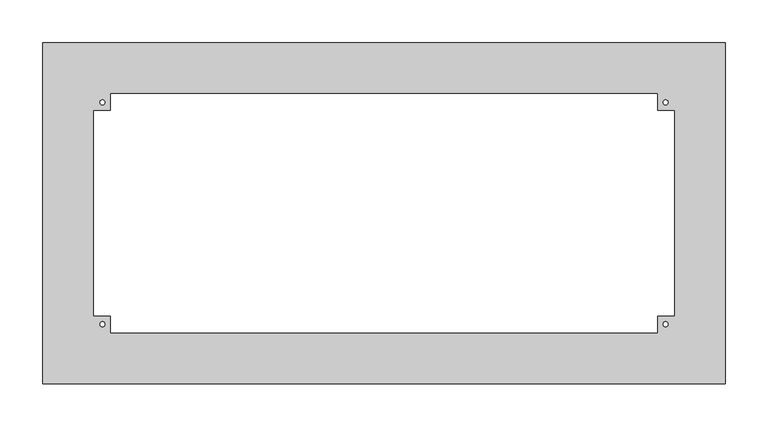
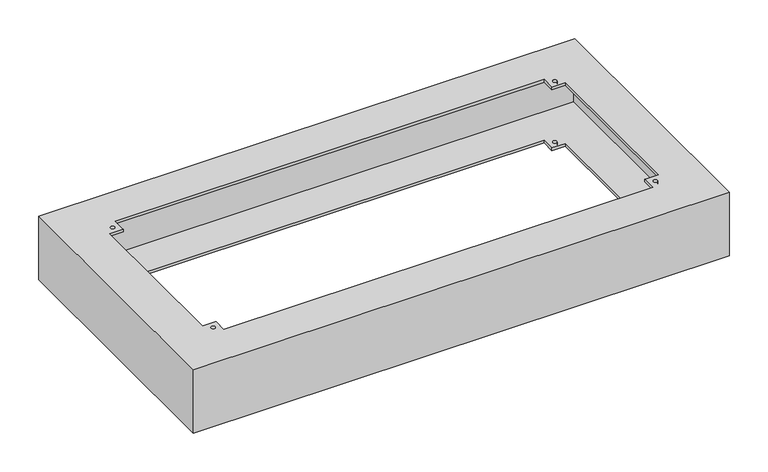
"""IFC4 building model written with IfcOpenShell, lengths in millimetres: furniture geometry, НВО_КНС_Сейсмоцоколь_DKC : Сейсмоцоколь 800x400x100мм."""

from ifc_helpers import new_model, si_unit, frame, origin, place, context, project, spatial, polyline, circle_curve, source, transform, mapped, element, save
from ifc_brep_helpers import plane_surface, revolved_surface, advanced_brep


def furniture_092bb3a8(model_context):
    return source(origin(), model_context, "Body", "AdvancedBrep", [
        advanced_brep(
        [(400.0, 200.0, 100.0), (-400.0, 200.0, 100.0), (-400.0, -200.0, 100.0), (400.0, -200.0, 100.0), (320.0, 140.0, 100.0), (320.0, 120.0, 100.0), (340.0, 120.0, 100.0), (340.0, -120.0, 100.0), (320.0, -120.0, 100.0), (320.0, -140.0, 100.0), (-320.0, -140.0, 100.0), (-320.0, -120.0, 100.0), (-340.0, -120.0, 100.0), (-340.0, 120.0, 100.0), (-320.0, 120.0, 100.0), (-320.0, 140.0, 100.0), (-332.8696247, 130.0, 100.0), (-327.1303753, 130.0, 100.0), (327.1303753, 130.0, 100.0), (332.8696247, 130.0, 100.0), (-332.8696247, -130.0, 100.0), (-327.1303753, -130.0, 100.0), (327.1303753, -130.0, 100.0), (332.8696247, -130.0, 100.0), (400.0, 200.0, 0.0), (400.0, -200.0, 0.0), (-400.0, -200.0, 0.0), (-400.0, 200.0, 0.0), (320.0, 140.0, 0.0), (-320.0, 140.0, 0.0), (-320.0, 120.0, 0.0), (-340.0, 120.0, 0.0), (-340.0, -120.0, 0.0), (-320.0, -120.0, 0.0), (-320.0, -140.0, 0.0), (320.0, -140.0, 0.0), (320.0, -120.0, 0.0), (340.0, -120.0, 0.0), (340.0, 120.0, 0.0), (320.0, 120.0, 0.0), (-332.8696247, 130.0, 0.0), (-327.1303753, 130.0, 0.0), (327.1303753, 130.0, 0.0), (332.8696247, 130.0, 0.0), (-332.8696247, -130.0, 0.0), (-327.1303753, -130.0, 0.0), (327.1303753, -130.0, 0.0), (332.8696247, -130.0, 0.0), (320.0, 140.0, 96.0), (320.0, 120.0, 96.0), (320.0, 120.0, 4.0), (320.0, 140.0, 4.0), (340.0, 120.0, 96.0), (340.0, 120.0, 4.0), (340.0, -120.0, 96.0), (340.0, -120.0, 4.0), (320.0, -120.0, 96.0), (320.0, -120.0, 4.0), (320.0, -140.0, 96.0), (320.0, -140.0, 4.0), (-320.0, -140.0, 96.0), (-320.0, -140.0, 4.0), (-320.0, -120.0, 96.0), (-320.0, -120.0, 4.0), (-340.0, -120.0, 96.0), (-340.0, -120.0, 4.0), (-340.0, 120.0, 96.0), (-340.0, 120.0, 4.0), (-320.0, 120.0, 96.0), (-320.0, 120.0, 4.0), (-320.0, 140.0, 96.0), (-320.0, 140.0, 4.0), (-332.8696247, 130.0, 96.0), (-327.1303753, 130.0, 96.0), (-327.1303753, 130.0, 4.0), (-332.8696247, 130.0, 4.0), (327.1303753, 130.0, 96.0), (332.8696247, 130.0, 96.0), (332.8696247, 130.0, 4.0), (327.1303753, 130.0, 4.0), (-332.8696247, -130.0, 96.0), (-327.1303753, -130.0, 96.0), (-327.1303753, -130.0, 4.0), (-332.8696247, -130.0, 4.0), (327.1303753, -130.0, 96.0), (332.8696247, -130.0, 96.0), (332.8696247, -130.0, 4.0), (327.1303753, -130.0, 4.0), (396.0, 196.0, 96.0), (396.0, -196.0, 96.0), (-396.0, -196.0, 96.0), (-396.0, 196.0, 96.0), (396.0, 196.0, 4.0), (-396.0, 196.0, 4.0), (-396.0, -196.0, 4.0), (396.0, -196.0, 4.0)],
        [
            (0, 1),
            (1, 2),
            (2, 3),
            (3, 0),
            (4, 5),
            (5, 6),
            (6, 7),
            (7, 8),
            (8, 9),
            (9, 10),
            (10, 11),
            (11, 12),
            (12, 13),
            (13, 14),
            (14, 15),
            (15, 4),
            (16, 17, circle_curve(frame((-330.0, 130.0, 100.0), z_axis=(0.0, 0.0, -1.0), x_axis=(1.0, 0.0, 0.0)), 2.8696247)),
            (17, 16, circle_curve(frame((-330.0, 130.0, 100.0), z_axis=(0.0, 0.0, -1.0), x_axis=(1.0, 0.0, 0.0)), 2.8696247)),
            (18, 19, circle_curve(frame((330.0, 130.0, 100.0), z_axis=(0.0, 0.0, -1.0), x_axis=(1.0, 0.0, 0.0)), 2.8696247)),
            (19, 18, circle_curve(frame((330.0, 130.0, 100.0), z_axis=(0.0, 0.0, -1.0), x_axis=(1.0, 0.0, 0.0)), 2.8696247)),
            (20, 21, circle_curve(frame((-330.0, -130.0, 100.0), z_axis=(0.0, 0.0, -1.0), x_axis=(1.0, 0.0, 0.0)), 2.8696247)),
            (21, 20, circle_curve(frame((-330.0, -130.0, 100.0), z_axis=(0.0, 0.0, -1.0), x_axis=(1.0, 0.0, 0.0)), 2.8696247)),
            (22, 23, circle_curve(frame((330.0, -130.0, 100.0), z_axis=(0.0, 0.0, -1.0), x_axis=(1.0, 0.0, 0.0)), 2.8696247)),
            (23, 22, circle_curve(frame((330.0, -130.0, 100.0), z_axis=(0.0, 0.0, -1.0), x_axis=(1.0, 0.0, 0.0)), 2.8696247)),
            (24, 25),
            (25, 26),
            (26, 27),
            (27, 24),
            (28, 29),
            (29, 30),
            (30, 31),
            (31, 32),
            (32, 33),
            (33, 34),
            (34, 35),
            (35, 36),
            (36, 37),
            (37, 38),
            (38, 39),
            (39, 28),
            (40, 41, circle_curve(frame((-330.0, 130.0, 0.0), z_axis=(0.0, 0.0, 1.0), x_axis=(1.0, 0.0, 0.0)), 2.8696247)),
            (41, 40, circle_curve(frame((-330.0, 130.0, 0.0), z_axis=(0.0, 0.0, 1.0), x_axis=(1.0, 0.0, 0.0)), 2.8696247)),
            (42, 43, circle_curve(frame((330.0, 130.0, 0.0), z_axis=(0.0, 0.0, 1.0), x_axis=(1.0, 0.0, 0.0)), 2.8696247)),
            (43, 42, circle_curve(frame((330.0, 130.0, 0.0), z_axis=(0.0, 0.0, 1.0), x_axis=(1.0, 0.0, 0.0)), 2.8696247)),
            (44, 45, circle_curve(frame((-330.0, -130.0, 0.0), z_axis=(0.0, 0.0, 1.0), x_axis=(1.0, 0.0, 0.0)), 2.8696247)),
            (45, 44, circle_curve(frame((-330.0, -130.0, 0.0), z_axis=(0.0, 0.0, 1.0), x_axis=(1.0, 0.0, 0.0)), 2.8696247)),
            (46, 47, circle_curve(frame((330.0, -130.0, 0.0), z_axis=(0.0, 0.0, 1.0), x_axis=(1.0, 0.0, 0.0)), 2.8696247)),
            (47, 46, circle_curve(frame((330.0, -130.0, 0.0), z_axis=(0.0, 0.0, 1.0), x_axis=(1.0, 0.0, 0.0)), 2.8696247)),
            (0, 24),
            (27, 1),
            (26, 2),
            (25, 3),
            (4, 48),
            (48, 49),
            (49, 5),
            (39, 50),
            (50, 51),
            (51, 28),
            (49, 52),
            (52, 6),
            (38, 53),
            (53, 50),
            (52, 54),
            (54, 7),
            (37, 55),
            (55, 53),
            (54, 56),
            (56, 8),
            (36, 57),
            (57, 55),
            (56, 58),
            (58, 9),
            (35, 59),
            (59, 57),
            (58, 60),
            (60, 10),
            (34, 61),
            (61, 59),
            (60, 62),
            (62, 11),
            (33, 63),
            (63, 61),
            (62, 64),
            (64, 12),
            (32, 65),
            (65, 63),
            (64, 66),
            (66, 13),
            (31, 67),
            (67, 65),
            (66, 68),
            (68, 14),
            (30, 69),
            (69, 67),
            (68, 70),
            (70, 15),
            (29, 71),
            (71, 69),
            (70, 48),
            (51, 71),
            (16, 72),
            (72, 73, circle_curve(frame((-330.0, 130.0, 96.0), z_axis=(0.0, 0.0, -1.0), x_axis=(1.0, 0.0, 0.0)), 2.8696247)),
            (73, 17),
            (41, 74),
            (74, 75, circle_curve(frame((-330.0, 130.0, 4.0), z_axis=(0.0, 0.0, 1.0), x_axis=(1.0, 0.0, 0.0)), 2.8696247)),
            (75, 40),
            (73, 72, circle_curve(frame((-330.0, 130.0, 96.0), z_axis=(0.0, 0.0, -1.0), x_axis=(1.0, 0.0, 0.0)), 2.8696247)),
            (75, 74, circle_curve(frame((-330.0, 130.0, 4.0), z_axis=(0.0, 0.0, 1.0), x_axis=(1.0, 0.0, 0.0)), 2.8696247)),
            (18, 76),
            (76, 77, circle_curve(frame((330.0, 130.0, 96.0), z_axis=(0.0, 0.0, -1.0), x_axis=(1.0, 0.0, 0.0)), 2.8696247)),
            (77, 19),
            (43, 78),
            (78, 79, circle_curve(frame((330.0, 130.0, 4.0), z_axis=(0.0, 0.0, 1.0), x_axis=(1.0, 0.0, 0.0)), 2.8696247)),
            (79, 42),
            (77, 76, circle_curve(frame((330.0, 130.0, 96.0), z_axis=(0.0, 0.0, -1.0), x_axis=(1.0, 0.0, 0.0)), 2.8696247)),
            (79, 78, circle_curve(frame((330.0, 130.0, 4.0), z_axis=(0.0, 0.0, 1.0), x_axis=(1.0, 0.0, 0.0)), 2.8696247)),
            (20, 80),
            (80, 81, circle_curve(frame((-330.0, -130.0, 96.0), z_axis=(0.0, 0.0, -1.0), x_axis=(1.0, 0.0, 0.0)), 2.8696247)),
            (81, 21),
            (45, 82),
            (82, 83, circle_curve(frame((-330.0, -130.0, 4.0), z_axis=(0.0, 0.0, 1.0), x_axis=(1.0, 0.0, 0.0)), 2.8696247)),
            (83, 44),
            (81, 80, circle_curve(frame((-330.0, -130.0, 96.0), z_axis=(0.0, 0.0, -1.0), x_axis=(1.0, 0.0, 0.0)), 2.8696247)),
            (83, 82, circle_curve(frame((-330.0, -130.0, 4.0), z_axis=(0.0, 0.0, 1.0), x_axis=(1.0, 0.0, 0.0)), 2.8696247)),
            (22, 84),
            (84, 85, circle_curve(frame((330.0, -130.0, 96.0), z_axis=(0.0, 0.0, -1.0), x_axis=(1.0, 0.0, 0.0)), 2.8696247)),
            (85, 23),
            (47, 86),
            (86, 87, circle_curve(frame((330.0, -130.0, 4.0), z_axis=(0.0, 0.0, 1.0), x_axis=(1.0, 0.0, 0.0)), 2.8696247)),
            (87, 46),
            (85, 84, circle_curve(frame((330.0, -130.0, 96.0), z_axis=(0.0, 0.0, -1.0), x_axis=(1.0, 0.0, 0.0)), 2.8696247)),
            (87, 86, circle_curve(frame((330.0, -130.0, 4.0), z_axis=(0.0, 0.0, 1.0), x_axis=(1.0, 0.0, 0.0)), 2.8696247)),
            (88, 89),
            (89, 90),
            (90, 91),
            (91, 88),
            (92, 93),
            (93, 94),
            (94, 95),
            (95, 92),
            (91, 93),
            (92, 88),
            (90, 94),
            (89, 95),
        ],
        [
            plane_surface(frame((-400.0, 200.0, 100.0), z_axis=(0.0, 0.0, 1.0), x_axis=(-1.0, 0.0, 0.0))),
            plane_surface(frame((-400.0, 200.0, 0.0), z_axis=(0.0, 0.0, -1.0), x_axis=(1.0, 0.0, 0.0))),
            plane_surface(frame((400.0, 200.0, 100.0), z_axis=(0.0, 1.0, 0.0), x_axis=(0.0, 0.0, -1.0))),
            plane_surface(frame((-400.0, 200.0, 100.0), z_axis=(-1.0, 0.0, 0.0), x_axis=(0.0, 0.0, -1.0))),
            plane_surface(frame((-400.0, -200.0, 100.0), z_axis=(0.0, -1.0, 0.0), x_axis=(0.0, 0.0, -1.0))),
            plane_surface(frame((400.0, -200.0, 100.0), z_axis=(1.0, 0.0, 0.0), x_axis=(0.0, 0.0, -1.0))),
            plane_surface(frame((320.0, 140.0, 100.0), z_axis=(-1.0, 0.0, 0.0), x_axis=(0.0, 0.0, -1.0))),
            plane_surface(frame((320.0, 120.0, 100.0), z_axis=(0.0, -1.0, 0.0), x_axis=(0.0, 0.0, -1.0))),
            plane_surface(frame((340.0, 120.0, 100.0), z_axis=(-1.0, 0.0, 0.0), x_axis=(0.0, 0.0, -1.0))),
            plane_surface(frame((340.0, -120.0, 100.0), z_axis=(0.0, 1.0, 0.0), x_axis=(0.0, 0.0, -1.0))),
            plane_surface(frame((320.0, -120.0, 100.0), z_axis=(-1.0, 0.0, 0.0), x_axis=(0.0, 0.0, -1.0))),
            plane_surface(frame((320.0, -140.0, 100.0), z_axis=(0.0, 1.0, 0.0), x_axis=(0.0, 0.0, -1.0))),
            plane_surface(frame((-320.0, -140.0, 100.0), z_axis=(1.0, 0.0, 0.0), x_axis=(0.0, 0.0, -1.0))),
            plane_surface(frame((-320.0, -120.0, 100.0), z_axis=(0.0, 1.0, 0.0), x_axis=(0.0, 0.0, -1.0))),
            plane_surface(frame((-340.0, -120.0, 100.0), z_axis=(1.0, 0.0, 0.0), x_axis=(0.0, 0.0, -1.0))),
            plane_surface(frame((-340.0, 120.0, 100.0), z_axis=(0.0, -1.0, 0.0), x_axis=(0.0, 0.0, -1.0))),
            plane_surface(frame((-320.0, 120.0, 100.0), z_axis=(1.0, 0.0, 0.0), x_axis=(0.0, 0.0, -1.0))),
            plane_surface(frame((-320.0, 140.0, 100.0), z_axis=(0.0, -1.0, 0.0), x_axis=(0.0, 0.0, -1.0))),
            revolved_surface(polyline([(-327.1303753, 130.0, 96.0), (-327.1303753, 130.0, 100.0)]), (-330.0, 130.0, 0.0), (0.0, 0.0, -1.0)),
            revolved_surface(polyline([(-327.1303753, 130.0, 0.0), (-327.1303753, 130.0, 4.0)]), (-330.0, 130.0, 0.0), (0.0, 0.0, -1.0)),
            revolved_surface(polyline([(332.8696247, 130.0, 96.0), (332.8696247, 130.0, 100.0)]), (330.0, 130.0, 0.0), (0.0, 0.0, -1.0)),
            revolved_surface(polyline([(332.8696247, 130.0, 0.0), (332.8696247, 130.0, 4.0)]), (330.0, 130.0, 0.0), (0.0, 0.0, -1.0)),
            revolved_surface(polyline([(-327.1303753, -130.0, 96.0), (-327.1303753, -130.0, 100.0)]), (-330.0, -130.0, 0.0), (0.0, 0.0, -1.0)),
            revolved_surface(polyline([(-327.1303753, -130.0, 0.0), (-327.1303753, -130.0, 4.0)]), (-330.0, -130.0, 0.0), (0.0, 0.0, -1.0)),
            revolved_surface(polyline([(332.8696247, -130.0, 96.0), (332.8696247, -130.0, 100.0)]), (330.0, -130.0, 0.0), (0.0, 0.0, -1.0)),
            revolved_surface(polyline([(332.8696247, -130.0, 0.0), (332.8696247, -130.0, 4.0)]), (330.0, -130.0, 0.0), (0.0, 0.0, -1.0)),
            plane_surface(frame((-396.0, 196.0, 96.0), z_axis=(0.0, 0.0, -1.0), x_axis=(-1.0, 0.0, 0.0))),
            plane_surface(frame((-396.0, 196.0, 4.0), z_axis=(0.0, 0.0, 1.0), x_axis=(1.0, 0.0, 0.0))),
            plane_surface(frame((396.0, 196.0, 96.0), z_axis=(0.0, -1.0, 0.0), x_axis=(0.0, 0.0, -1.0))),
            plane_surface(frame((-396.0, 196.0, 96.0), z_axis=(1.0, 0.0, 0.0), x_axis=(0.0, 0.0, -1.0))),
            plane_surface(frame((-396.0, -196.0, 96.0), z_axis=(0.0, 1.0, 0.0), x_axis=(0.0, 0.0, -1.0))),
            plane_surface(frame((396.0, -196.0, 96.0), z_axis=(-1.0, 0.0, 0.0), x_axis=(0.0, 0.0, -1.0))),
        ],
        [
            (0, [[1, 2, 3, 4], [5, 6, 7, 8, 9, 10, 11, 12, 13, 14, 15, 16], [17, 18], [19, 20], [21, 22], [23, 24]]),
            (1, [[25, 26, 27, 28], [29, 30, 31, 32, 33, 34, 35, 36, 37, 38, 39, 40], [41, 42], [43, 44], [45, 46], [47, 48]]),
            (2, [[-1, 49, -28, 50]]),
            (3, [[-2, -50, -27, 51]]),
            (4, [[-3, -51, -26, 52]]),
            (5, [[-4, -52, -25, -49]]),
            (6, [[-5, 53, 54, 55]]),
            (6, [[-40, 56, 57, 58]]),
            (7, [[-6, -55, 59, 60]]),
            (7, [[-39, 61, 62, -56]]),
            (8, [[-7, -60, 63, 64]]),
            (8, [[-38, 65, 66, -61]]),
            (9, [[-8, -64, 67, 68]]),
            (9, [[-37, 69, 70, -65]]),
            (10, [[-9, -68, 71, 72]]),
            (10, [[-36, 73, 74, -69]]),
            (11, [[-10, -72, 75, 76]]),
            (11, [[-35, 77, 78, -73]]),
            (12, [[-11, -76, 79, 80]]),
            (12, [[-34, 81, 82, -77]]),
            (13, [[-12, -80, 83, 84]]),
            (13, [[-33, 85, 86, -81]]),
            (14, [[-13, -84, 87, 88]]),
            (14, [[-32, 89, 90, -85]]),
            (15, [[-14, -88, 91, 92]]),
            (15, [[-31, 93, 94, -89]]),
            (16, [[-15, -92, 95, 96]]),
            (16, [[-30, 97, 98, -93]]),
            (17, [[-16, -96, 99, -53]]),
            (17, [[-29, -58, 100, -97]]),
            (18, [[-17, 101, 102, 103]]),
            (19, [[-42, 104, 105, 106]]),
            (18, [[-18, -103, 107, -101]]),
            (19, [[-41, -106, 108, -104]]),
            (20, [[-19, 109, 110, 111]]),
            (21, [[-44, 112, 113, 114]]),
            (20, [[-20, -111, 115, -109]]),
            (21, [[-43, -114, 116, -112]]),
            (22, [[-21, 117, 118, 119]]),
            (23, [[-46, 120, 121, 122]]),
            (22, [[-22, -119, 123, -117]]),
            (23, [[-45, -122, 124, -120]]),
            (24, [[-23, 125, 126, 127]]),
            (25, [[-48, 128, 129, 130]]),
            (24, [[-24, -127, 131, -125]]),
            (25, [[-47, -130, 132, -128]]),
            (26, [[133, 134, 135, 136], [-54, -99, -95, -91, -87, -83, -79, -75, -71, -67, -63, -59], [-102, -107], [-110, -115], [-118, -123], [-126, -131]]),
            (27, [[137, 138, 139, 140], [-57, -62, -66, -70, -74, -78, -82, -86, -90, -94, -98, -100], [-105, -108], [-113, -116], [-121, -124], [-129, -132]]),
            (28, [[-136, 141, -137, 142]]),
            (29, [[-135, 143, -138, -141]]),
            (30, [[-134, 144, -139, -143]]),
            (31, [[-133, -142, -140, -144]]),
        ],
    ),
    ])


if __name__ == "__main__":
    model = new_model("IFC4")
    model_context = context("Model", 3, world=origin())
    ifc_project = project(units=[si_unit("LENGTHUNIT", "METRE", prefix="MILLI")], contexts=[model_context])
    site = spatial("IfcSite", under=ifc_project)
    building = spatial("IfcBuilding", under=site)
    placement = place(None, origin())
    furniture_shape = furniture_092bb3a8(model_context)
    element("IfcFurniture", 1, ObjectType="НВО_КНС_Сейсмоцоколь_DKC : Сейсмоцоколь 800x400x100мм", at=placement, inside=building, context=model_context, shape_type="MappedRepresentation", body=[
        mapped(furniture_shape, transform((0.0, 0.0, 0.0), x_axis=(1.0, 0.0, 0.0), y_axis=(0.0, 1.0, 0.0), z_axis=(0.0, 0.0, 1.0))),
    ])
    save(model, "model.ifc")
